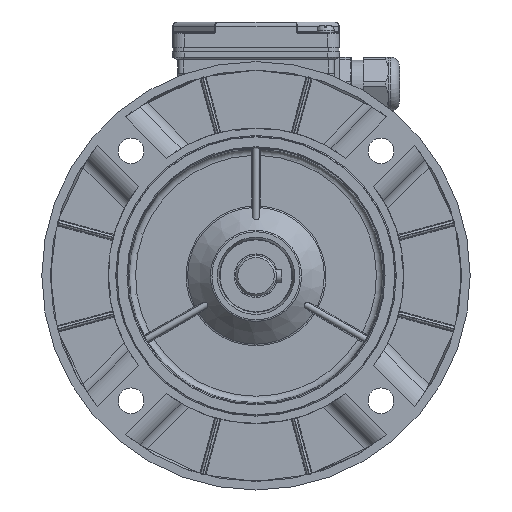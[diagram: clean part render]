
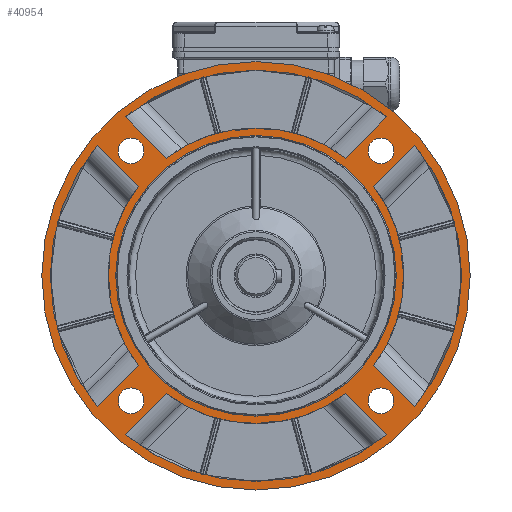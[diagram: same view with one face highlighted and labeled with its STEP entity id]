
A CAD part, left-side view. The second image highlights one B-rep face of the part: STEP entity #40954.
In plain terms, the highlighted planar face has unit normal (-1, 0, 0).
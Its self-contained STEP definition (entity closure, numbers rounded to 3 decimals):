
#3984=LINE('',#82305,#7169);
#3985=LINE('',#82316,#7170);
#3986=LINE('',#82339,#7171);
#3987=LINE('',#82350,#7172);
#3988=LINE('',#82388,#7173);
#3989=LINE('',#82399,#7174);
#3990=LINE('',#82422,#7175);
#3991=LINE('',#82433,#7176);
#7169=VECTOR('',#69479,1000.);
#7170=VECTOR('',#69486,1000.);
#7171=VECTOR('',#69493,1000.);
#7172=VECTOR('',#69500,1000.);
#7173=VECTOR('',#69527,1000.);
#7174=VECTOR('',#69534,1000.);
#7175=VECTOR('',#69541,1000.);
#7176=VECTOR('',#69548,1000.);
#8695=PLANE('',#60295);
#17817=ORIENTED_EDGE('',*,*,#25991,.T.);
#17818=ORIENTED_EDGE('',*,*,#25989,.T.);
#17819=ORIENTED_EDGE('',*,*,#25988,.T.);
#17820=ORIENTED_EDGE('',*,*,#25985,.T.);
#17821=ORIENTED_EDGE('',*,*,#25983,.T.);
#17822=ORIENTED_EDGE('',*,*,#25981,.T.);
#17823=ORIENTED_EDGE('',*,*,#25980,.T.);
#17824=ORIENTED_EDGE('',*,*,#25977,.T.);
#17825=ORIENTED_EDGE('',*,*,#25975,.F.);
#17826=ORIENTED_EDGE('',*,*,#25974,.F.);
#17827=ORIENTED_EDGE('',*,*,#25973,.F.);
#17828=ORIENTED_EDGE('',*,*,#25972,.F.);
#17829=ORIENTED_EDGE('',*,*,#26042,.T.);
#17830=ORIENTED_EDGE('',*,*,#25971,.T.);
#17831=ORIENTED_EDGE('',*,*,#25970,.T.);
#17832=ORIENTED_EDGE('',*,*,#25968,.T.);
#17833=ORIENTED_EDGE('',*,*,#25967,.T.);
#17834=ORIENTED_EDGE('',*,*,#25964,.T.);
#17835=ORIENTED_EDGE('',*,*,#25962,.T.);
#17836=ORIENTED_EDGE('',*,*,#25960,.T.);
#17837=ORIENTED_EDGE('',*,*,#25959,.T.);
#17838=ORIENTED_EDGE('',*,*,#25956,.T.);
#25956=EDGE_CURVE('',#30728,#30727,#33322,.T.);
#25959=EDGE_CURVE('',#30729,#30728,#3984,.T.);
#25960=EDGE_CURVE('',#30730,#30729,#33323,.T.);
#25962=EDGE_CURVE('',#30727,#30730,#3985,.T.);
#25964=EDGE_CURVE('',#30732,#30731,#33324,.T.);
#25967=EDGE_CURVE('',#30733,#30732,#3986,.T.);
#25968=EDGE_CURVE('',#30734,#30733,#33325,.T.);
#25970=EDGE_CURVE('',#30731,#30734,#3987,.T.);
#25971=EDGE_CURVE('',#30735,#30735,#33326,.T.);
#25972=EDGE_CURVE('',#30736,#30736,#33327,.T.);
#25973=EDGE_CURVE('',#30737,#30737,#33328,.T.);
#25974=EDGE_CURVE('',#30738,#30738,#33329,.T.);
#25975=EDGE_CURVE('',#30739,#30739,#33330,.T.);
#25977=EDGE_CURVE('',#30741,#30740,#33331,.T.);
#25980=EDGE_CURVE('',#30742,#30741,#3988,.T.);
#25981=EDGE_CURVE('',#30743,#30742,#33332,.T.);
#25983=EDGE_CURVE('',#30740,#30743,#3989,.T.);
#25985=EDGE_CURVE('',#30745,#30744,#33333,.T.);
#25988=EDGE_CURVE('',#30746,#30745,#3990,.T.);
#25989=EDGE_CURVE('',#30747,#30746,#33334,.T.);
#25991=EDGE_CURVE('',#30744,#30747,#3991,.T.);
#26042=EDGE_CURVE('',#30782,#30782,#33345,.F.);
#30727=VERTEX_POINT('',#82289);
#30728=VERTEX_POINT('',#82291);
#30729=VERTEX_POINT('',#82304);
#30730=VERTEX_POINT('',#82308);
#30731=VERTEX_POINT('',#82323);
#30732=VERTEX_POINT('',#82325);
#30733=VERTEX_POINT('',#82338);
#30734=VERTEX_POINT('',#82342);
#30735=VERTEX_POINT('',#82353);
#30736=VERTEX_POINT('',#82356);
#30737=VERTEX_POINT('',#82359);
#30738=VERTEX_POINT('',#82362);
#30739=VERTEX_POINT('',#82365);
#30740=VERTEX_POINT('',#82372);
#30741=VERTEX_POINT('',#82374);
#30742=VERTEX_POINT('',#82387);
#30743=VERTEX_POINT('',#82391);
#30744=VERTEX_POINT('',#82406);
#30745=VERTEX_POINT('',#82408);
#30746=VERTEX_POINT('',#82421);
#30747=VERTEX_POINT('',#82425);
#30782=VERTEX_POINT('',#82626);
#33322=CIRCLE('',#60234,96.);
#33323=CIRCLE('',#60237,69.);
#33324=CIRCLE('',#60240,96.);
#33325=CIRCLE('',#60243,69.);
#33326=CIRCLE('',#60246,100.);
#33327=CIRCLE('',#60248,6.);
#33328=CIRCLE('',#60250,6.);
#33329=CIRCLE('',#60252,6.);
#33330=CIRCLE('',#60254,6.);
#33331=CIRCLE('',#60256,96.);
#33332=CIRCLE('',#60259,69.);
#33333=CIRCLE('',#60262,96.);
#33334=CIRCLE('',#60265,69.);
#33345=CIRCLE('',#60296,65.5);
#35704=EDGE_LOOP('',(#17817,#17818,#17819,#17820));
#35705=EDGE_LOOP('',(#17821,#17822,#17823,#17824));
#35706=EDGE_LOOP('',(#17825));
#35707=EDGE_LOOP('',(#17826));
#35708=EDGE_LOOP('',(#17827));
#35709=EDGE_LOOP('',(#17828));
#35710=EDGE_LOOP('',(#17829));
#35711=EDGE_LOOP('',(#17830));
#35712=EDGE_LOOP('',(#17831,#17832,#17833,#17834));
#35713=EDGE_LOOP('',(#17835,#17836,#17837,#17838));
#38467=FACE_BOUND('',#35704,.T.);
#38468=FACE_BOUND('',#35705,.T.);
#38469=FACE_BOUND('',#35706,.T.);
#38470=FACE_BOUND('',#35707,.T.);
#38471=FACE_BOUND('',#35708,.T.);
#38472=FACE_BOUND('',#35709,.T.);
#38473=FACE_BOUND('',#35710,.T.);
#38474=FACE_BOUND('',#35711,.T.);
#38475=FACE_BOUND('',#35712,.T.);
#38476=FACE_BOUND('',#35713,.T.);
#40954=ADVANCED_FACE('',(#38467,#38468,#38469,#38470,#38471,#38472,#38473,
#38474,#38475,#38476),#8695,.T.);
#60234=AXIS2_PLACEMENT_3D('',#82290,#69475,#69476);
#60237=AXIS2_PLACEMENT_3D('',#82307,#69482,#69483);
#60240=AXIS2_PLACEMENT_3D('',#82324,#69489,#69490);
#60243=AXIS2_PLACEMENT_3D('',#82341,#69496,#69497);
#60246=AXIS2_PLACEMENT_3D('',#82352,#69503,#69504);
#60248=AXIS2_PLACEMENT_3D('',#82355,#69507,#69508);
#60250=AXIS2_PLACEMENT_3D('',#82358,#69511,#69512);
#60252=AXIS2_PLACEMENT_3D('',#82361,#69515,#69516);
#60254=AXIS2_PLACEMENT_3D('',#82364,#69519,#69520);
#60256=AXIS2_PLACEMENT_3D('',#82373,#69523,#69524);
#60259=AXIS2_PLACEMENT_3D('',#82390,#69530,#69531);
#60262=AXIS2_PLACEMENT_3D('',#82407,#69537,#69538);
#60265=AXIS2_PLACEMENT_3D('',#82424,#69544,#69545);
#60295=AXIS2_PLACEMENT_3D('',#82624,#69621,#69622);
#60296=AXIS2_PLACEMENT_3D('',#82625,#69623,#69624);
#69475=DIRECTION('',(1.,0.,0.));
#69476=DIRECTION('',(0.,0.,-1.));
#69479=DIRECTION('',(0.,0.707,0.707));
#69482=DIRECTION('',(-1.,0.,0.));
#69483=DIRECTION('',(0.,0.,-1.));
#69486=DIRECTION('',(0.,0.707,-0.707));
#69489=DIRECTION('',(1.,0.,0.));
#69490=DIRECTION('',(0.,0.,1.));
#69493=DIRECTION('',(0.,-0.707,-0.707));
#69496=DIRECTION('',(-1.,0.,0.));
#69497=DIRECTION('',(0.,0.,1.));
#69500=DIRECTION('',(0.,-0.707,0.707));
#69503=DIRECTION('',(-1.,0.,0.));
#69504=DIRECTION('',(0.,0.,-1.));
#69507=DIRECTION('',(-1.,0.,0.));
#69508=DIRECTION('',(0.,-1.,0.));
#69511=DIRECTION('',(-1.,0.,0.));
#69512=DIRECTION('',(0.,-1.,0.));
#69515=DIRECTION('',(-1.,0.,0.));
#69516=DIRECTION('',(0.,-1.,0.));
#69519=DIRECTION('',(-1.,0.,0.));
#69520=DIRECTION('',(0.,-1.,0.));
#69523=DIRECTION('',(1.,0.,0.));
#69524=DIRECTION('',(0.,1.,0.));
#69527=DIRECTION('',(0.,-0.707,0.707));
#69530=DIRECTION('',(-1.,0.,0.));
#69531=DIRECTION('',(0.,1.,0.));
#69534=DIRECTION('',(0.,0.707,0.707));
#69537=DIRECTION('',(1.,0.,0.));
#69538=DIRECTION('',(0.,-1.,0.));
#69541=DIRECTION('',(0.,0.707,-0.707));
#69544=DIRECTION('',(-1.,0.,0.));
#69545=DIRECTION('',(0.,-1.,0.));
#69548=DIRECTION('',(0.,-0.707,-0.707));
#69621=DIRECTION('',(-1.,0.,0.));
#69622=DIRECTION('',(0.,0.,-1.));
#69623=DIRECTION('',(-1.,0.,0.));
#69624=DIRECTION('',(0.,0.,-1.));
#82289=CARTESIAN_POINT('',(-44.8,-60.96,74.161));
#82290=CARTESIAN_POINT('',(-44.8,0.,0.));
#82291=CARTESIAN_POINT('',(-44.8,60.96,74.161));
#82304=CARTESIAN_POINT('',(-44.8,41.741,54.943));
#82305=CARTESIAN_POINT('',(-44.8,60.009,73.211));
#82307=CARTESIAN_POINT('',(-44.8,0.,0.));
#82308=CARTESIAN_POINT('',(-44.8,-41.741,54.943));
#82316=CARTESIAN_POINT('',(-44.8,-40.403,53.605));
#82323=CARTESIAN_POINT('',(-44.8,60.96,-74.161));
#82324=CARTESIAN_POINT('',(-44.8,0.,0.));
#82325=CARTESIAN_POINT('',(-44.8,-60.96,-74.161));
#82338=CARTESIAN_POINT('',(-44.8,-41.741,-54.943));
#82339=CARTESIAN_POINT('',(-44.8,-60.009,-73.211));
#82341=CARTESIAN_POINT('',(-44.8,0.,0.));
#82342=CARTESIAN_POINT('',(-44.8,41.741,-54.943));
#82350=CARTESIAN_POINT('',(-44.8,40.403,-53.605));
#82352=CARTESIAN_POINT('',(-44.8,0.,0.));
#82353=CARTESIAN_POINT('',(-44.8,0.,-100.));
#82355=CARTESIAN_POINT('',(-44.8,58.336,58.336));
#82356=CARTESIAN_POINT('',(-44.8,52.336,58.336));
#82358=CARTESIAN_POINT('',(-44.8,-58.336,58.336));
#82359=CARTESIAN_POINT('',(-44.8,-64.336,58.336));
#82361=CARTESIAN_POINT('',(-44.8,-58.336,-58.336));
#82362=CARTESIAN_POINT('',(-44.8,-64.336,-58.336));
#82364=CARTESIAN_POINT('',(-44.8,58.336,-58.336));
#82365=CARTESIAN_POINT('',(-44.8,52.336,-58.336));
#82372=CARTESIAN_POINT('',(-44.8,-74.161,-60.96));
#82373=CARTESIAN_POINT('',(-44.8,0.,0.));
#82374=CARTESIAN_POINT('',(-44.8,-74.161,60.96));
#82387=CARTESIAN_POINT('',(-44.8,-54.943,41.741));
#82388=CARTESIAN_POINT('',(-44.8,-73.211,60.009));
#82390=CARTESIAN_POINT('',(-44.8,0.,0.));
#82391=CARTESIAN_POINT('',(-44.8,-54.943,-41.741));
#82399=CARTESIAN_POINT('',(-44.8,-53.605,-40.403));
#82406=CARTESIAN_POINT('',(-44.8,74.161,60.96));
#82407=CARTESIAN_POINT('',(-44.8,0.,0.));
#82408=CARTESIAN_POINT('',(-44.8,74.161,-60.96));
#82421=CARTESIAN_POINT('',(-44.8,54.943,-41.741));
#82422=CARTESIAN_POINT('',(-44.8,73.211,-60.009));
#82424=CARTESIAN_POINT('',(-44.8,0.,0.));
#82425=CARTESIAN_POINT('',(-44.8,54.943,41.741));
#82433=CARTESIAN_POINT('',(-44.8,53.605,40.403));
#82624=CARTESIAN_POINT('',(-44.8,0.,-65.));
#82625=CARTESIAN_POINT('',(-44.8,0.,0.));
#82626=CARTESIAN_POINT('',(-44.8,0.,-65.5));
